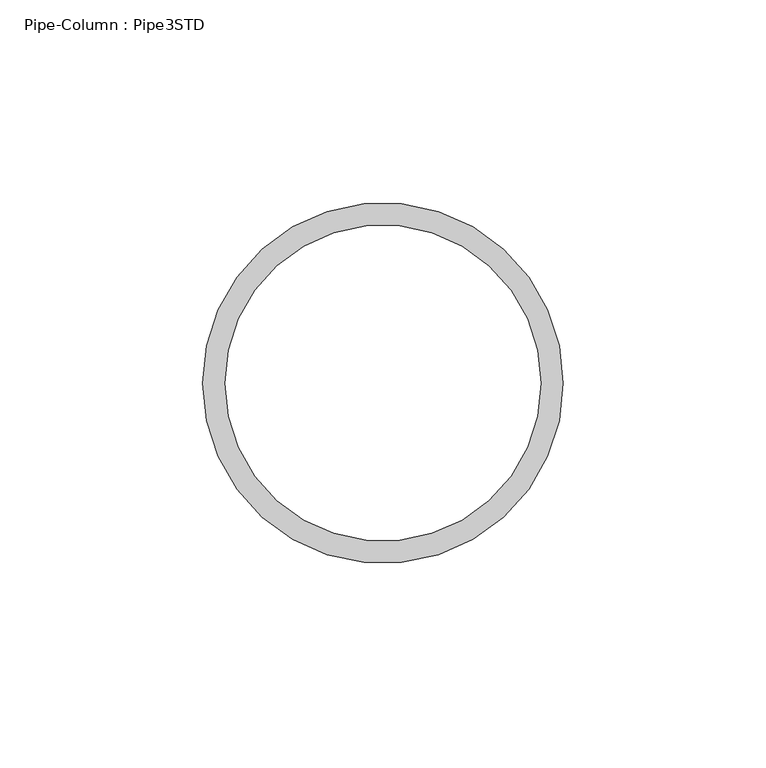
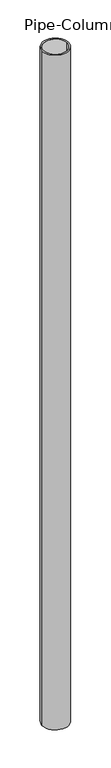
"""IFC4 building model written with IfcOpenShell, lengths in millimetres: column geometry, Pipe-Column : Pipe3STD."""

from ifc_helpers import new_model, si_unit, point, frame, origin, origin_2d, place, context, project, spatial, circle_curve, trimmed, segment, composite_curve, outline, extrude, source, transform, mapped, element, save


def pipe_column_pipe3std_028f6587(model_context):
    return source(origin(), model_context, "Body", "SweptSolid", [
        extrude(outline(composite_curve([segment(trimmed(circle_curve(origin_2d(), 44.45), [point((-44.45, 0.0))], [point((44.45, 0.0))], False, "CARTESIAN"), True, "CONTINUOUS"), segment(trimmed(circle_curve(origin_2d(), 44.45), [point((44.45, 0.0))], [point((-44.45, 0.0))], False, "CARTESIAN"), True, "CONTINUOUS")], self_intersect=False), holes=[composite_curve([segment(trimmed(circle_curve(origin_2d(), 38.9636), [point((-38.9636, 0.0))], [point((38.9636, 0.0))], True, "CARTESIAN"), True, "CONTINUOUS"), segment(trimmed(circle_curve(origin_2d(), 38.9636), [point((38.9636, 0.0))], [point((-38.9636, 0.0))], True, "CARTESIAN"), True, "CONTINUOUS")], self_intersect=False)]), frame((0.0, 0.0, -1149.35), z_axis=(0.0, 0.0, 1.0), x_axis=(1.0, 0.0, 0.0)), (0.0, 0.0, 1.0), 2414.7859375),
    ])


if __name__ == "__main__":
    model = new_model("IFC4")
    model_context = context("Model", 3, world=origin())
    ifc_project = project(units=[si_unit("LENGTHUNIT", "METRE", prefix="MILLI")], contexts=[model_context])
    site = spatial("IfcSite", under=ifc_project)
    building = spatial("IfcBuilding", under=site)
    placement = place(None, origin())
    pipe_column_pipe3std_shape = pipe_column_pipe3std_028f6587(model_context)
    element("IfcColumn", 1, ObjectType="Pipe-Column : Pipe3STD", at=placement, inside=building, context=model_context, shape_type="MappedRepresentation", body=[
        mapped(pipe_column_pipe3std_shape, transform((0.0, 0.0, 0.0), x_axis=(1.0, 0.0, 0.0), y_axis=(0.0, 1.0, 0.0), z_axis=(0.0, 0.0, 1.0))),
    ])
    save(model, "model.ifc")
